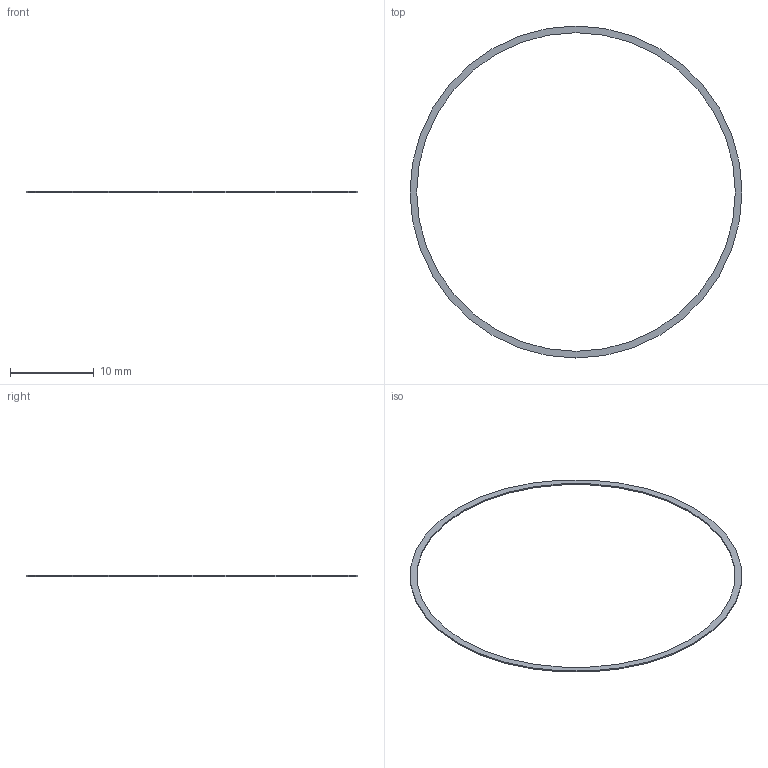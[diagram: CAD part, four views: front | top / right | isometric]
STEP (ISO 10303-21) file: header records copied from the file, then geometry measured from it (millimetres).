
FILE_DESCRIPTION(/* description */ (''),/* implementation_level */ '2;1');
FILE_NAME(/* name */ 'C27_R2_Speaker_Frame_Gasket.step',/* time_stamp */ '2026-09-10T17:49:03-07:00',/* author */ (''),/* organization */ (''),/* preprocessor_version */ 'ST-DEVELOPER v20.1',/* originating_system */ 'Autodesk Translation Framework v15.8.0.0',/* authorisation */ '');
FILE_SCHEMA (('AUTOMOTIVE_DESIGN { 1 0 10303 214 3 1 1 }'));
Length unit declared in the file: millimetre
Products named in the file (1): 2026-09-10-17-49-03-740
Bounding box: 39.6 x 39.6 x 0.15 mm (x, y, z)
Volume: 14.6 mm3; surface area: 231.6 mm2
Topology: 1 solids, 1 shells, 4 faces, 6 edges, 4 vertices
Faces by surface type: cylinder 2, plane 2
Full cylindrical faces by diameter (mm): 38 x1, 39.6 x1
Entity records: 131 total; most frequent: DIRECTION 20, CARTESIAN_POINT 15, ORIENTED_EDGE 12, AXIS2_PLACEMENT_3D 9, EDGE_LOOP 6, EDGE_CURVE 6, FACE_OUTER_BOUND 4, CIRCLE 4
